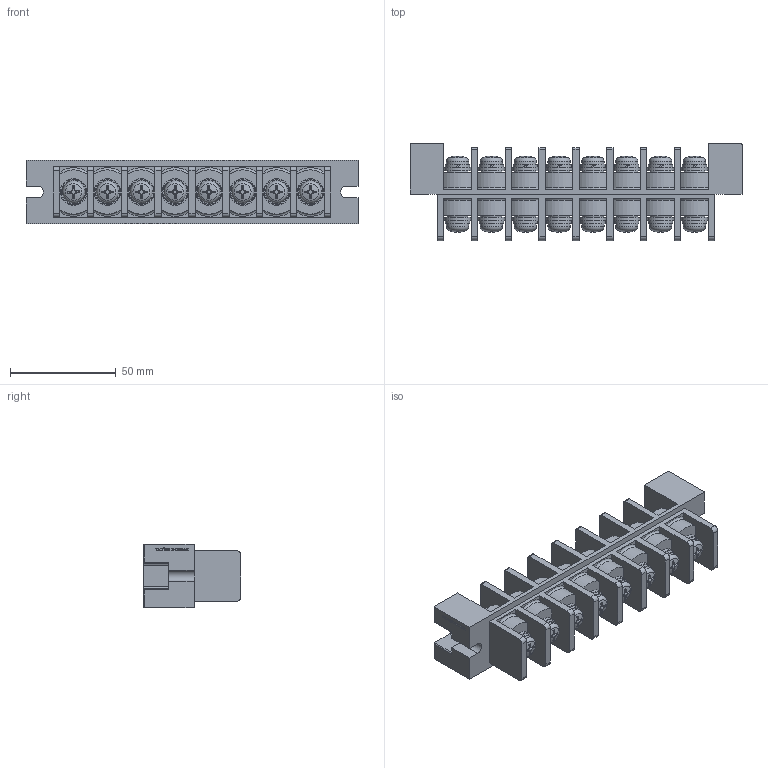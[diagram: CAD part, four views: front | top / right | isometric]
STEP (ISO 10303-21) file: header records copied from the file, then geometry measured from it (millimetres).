
FILE_DESCRIPTION(/* description */ ('Alibre Inc.'),/* implementation_level */ '2;1');
FILE_NAME(/* name */ 'export0',/* time_stamp */ '2016-01-14T19:23:28+09:00',/* author */ (''),/* organization */ (''),/* preprocessor_version */ 'ST-DEVELOPER v14',/* originating_system */ 'Alibre',/* authorisation */ '');
FILE_SCHEMA (('CONFIG_CONTROL_DESIGN'));
Length unit declared in the file: centimetre
Products named in the file (1): ID_1
Bounding box: 157 x 46 x 30 mm (x, y, z)
Volume: 100305.2 mm3; surface area: 43021.9 mm2
Topology: 1 solids, 25 shells, 1074 faces, 2744 edges, 1807 vertices
Faces by surface type: plane 614, cylinder 232, cone 112, bspline 52, torus 48, sphere 16
Full cylindrical faces by diameter (mm): 4.55 x2, 6 x24, 10.5 x32, 10.75 x16, 12.5 x16
Entity records: 32428 total; most frequent: CARTESIAN_POINT 8296, ORIENTED_EDGE 5082, DIRECTION 4307, EDGE_CURVE 2541, AXIS2_PLACEMENT_3D 1789, VERTEX_POINT 1758, EDGE_LOOP 1347, FACE_BOUND 1347
